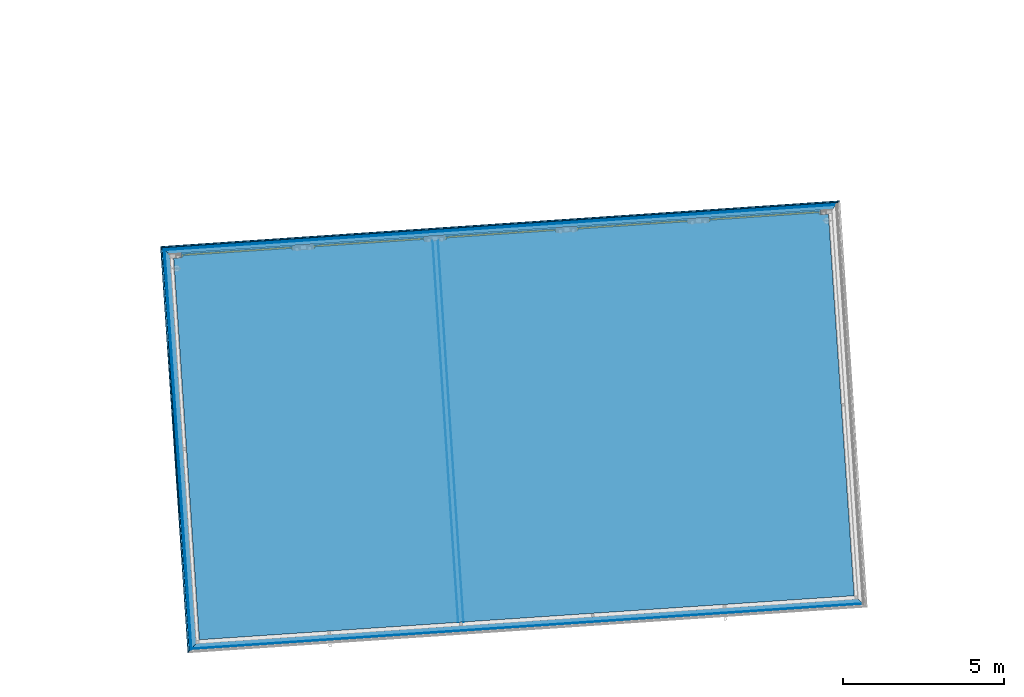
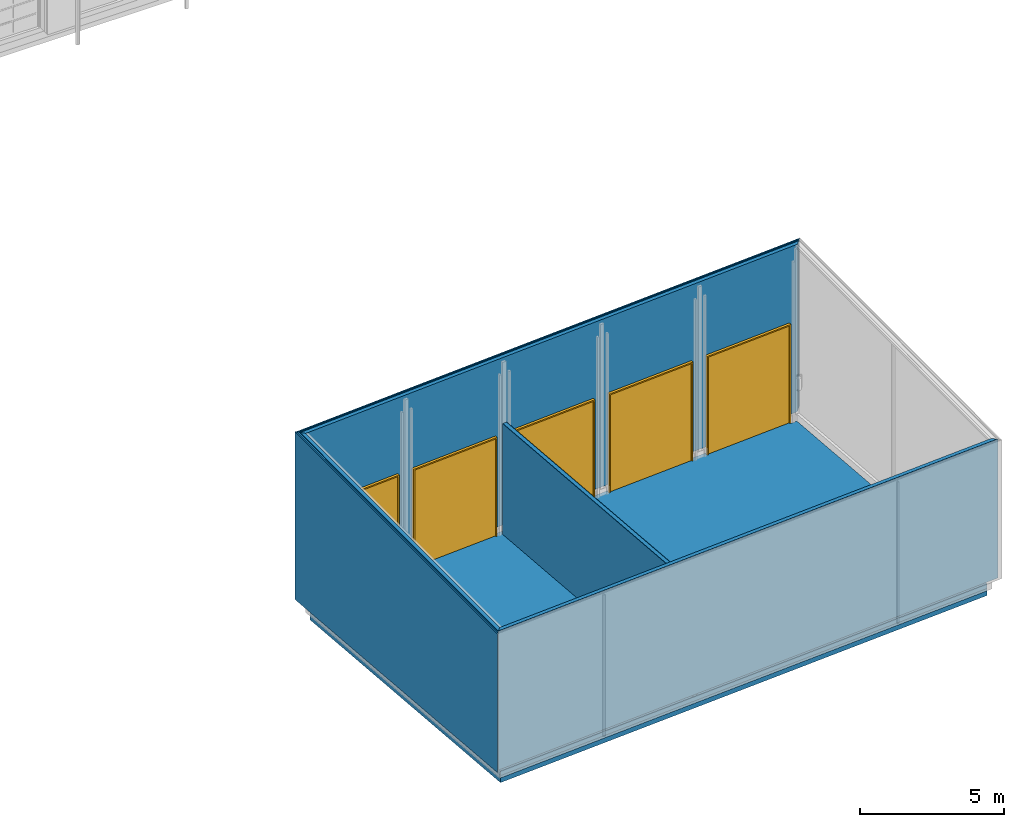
# One storey, part 19 of 112: 18 building element parts, 5 doors, 5 openings, 5 elements without a shape of their own.
"""IFC2X3 building model written with IfcOpenShell, lengths in millimetres."""

import ifcopenshell
import ifcopenshell.guid

model = None  # the IFC model being written
_history = None  # IfcOwnerHistory: only IFC2X3 demands one
_inside = {}  # id of a spatial element -> (the spatial element, [elements in it])
_under = {}  # id of a project, library or spatial element -> (it, [spatial elements below it])
_declared = {}  # id of a project -> (the project, [libraries it declares])
_typed = {}  # id of a type object -> (the type object, [elements of that type])
_made_of = {}  # id of a material, layer set ... -> (it, [elements and type objects made of it])


def new_model(schema):
    """Start an empty IFC model of exactly this schema.

    Asked for "IFC4X3", IfcOpenShell would pick the latest addendum, in which some entities
    have other attributes; the version numbers below select the first issue.
    IFC2X3 requires an IfcOwnerHistory on every rooted entity: one is made here for all.
    """
    global model, _history
    if schema == "IFC4X3":
        model = ifcopenshell.file(schema_version=(4, 3, 0, 0))
    else:
        model = ifcopenshell.file(schema=schema)
    _inside.clear()
    _under.clear()
    _declared.clear()
    _typed.clear()
    _made_of.clear()
    _history = None
    if model.schema == "IFC2X3":
        org = make("IfcOrganization", Name="unknown")
        user = make(
            "IfcPersonAndOrganization",
            ThePerson=make("IfcPerson", FamilyName="unknown"),
            TheOrganization=org,
        )
        app = make(
            "IfcApplication",
            ApplicationDeveloper=org,
            Version="unknown",
            ApplicationFullName="unknown",
            ApplicationIdentifier="unknown",
        )
        _history = make(
            "IfcOwnerHistory",
            OwningUser=user,
            OwningApplication=app,
            ChangeAction="ADDED",
            CreationDate=0,
        )
    return model


def make(cls, **values):
    """One entity of the class cls with the attributes given. An attribute that is None is left unset."""
    return model.create_entity(
        cls, **{name: value for name, value in values.items() if value is not None}
    )


def entity(cls, *values):
    """Any entity or typed value of the class cls, its attributes in the order of the schema. None: left unset."""
    e = model.create_entity(cls)
    for i, value in enumerate(values):
        if value is not None:
            e[i] = value
    return e


def rooted(cls, **values):
    """An entity with a GlobalId (a new one), such as an element, a storey or a relation."""
    return make(cls, GlobalId=ifcopenshell.guid.new(), OwnerHistory=_history, **values)


def si_unit(unit_type, name, prefix=None):
    """IfcSIUnit, for example si_unit("LENGTHUNIT", "METRE", prefix="MILLI")."""
    return make("IfcSIUnit", UnitType=unit_type, Prefix=prefix, Name=name)


def converted_unit(unit_type, name, factor, base, dimensions=None, offset=None):
    """IfcConversionBasedUnit, such as the inch: factor (a typed value) times the base unit."""
    return make(
        "IfcConversionBasedUnit"
        if offset is None
        else "IfcConversionBasedUnitWithOffset",
        ConversionOffset=offset,
        Dimensions=None
        if dimensions is None
        else entity("IfcDimensionalExponents", *dimensions),
        UnitType=unit_type,
        Name=name,
        ConversionFactor=make(
            "IfcMeasureWithUnit", ValueComponent=factor, UnitComponent=base
        ),
    )


def derived_unit(unit_type, elements):
    """IfcDerivedUnit: a product of units, each with its exponent."""
    return make(
        "IfcDerivedUnit",
        Elements=[
            make("IfcDerivedUnitElement", Unit=unit, Exponent=power)
            for unit, power in elements
        ],
        UnitType=unit_type,
    )


def money_unit(currency):
    """IfcMonetaryUnit."""
    return make("IfcMonetaryUnit", Currency=currency)


def assignment(units):
    """IfcUnitAssignment: the units of a project."""
    return None if units is None else make("IfcUnitAssignment", Units=units)


def point(xyz):
    """IfcCartesianPoint."""
    return None if xyz is None else make("IfcCartesianPoint", Coordinates=xyz)


def direction(xyz):
    """IfcDirection."""
    return None if xyz is None else make("IfcDirection", DirectionRatios=xyz)


def frame(location, z_axis=None, x_axis=None):
    """IfcAxis2Placement3D, a coordinate frame: its origin and axes. An axis left out is left unset."""
    return make(
        "IfcAxis2Placement3D",
        Location=point(location),
        Axis=direction(z_axis),
        RefDirection=direction(x_axis),
    )


def frame_2d(location, x_axis=None):
    """IfcAxis2Placement2D, a coordinate frame in the plane: its origin and x axis."""
    return make(
        "IfcAxis2Placement2D", Location=point(location), RefDirection=direction(x_axis)
    )


def origin_with_axes():
    """The frame at (0, 0, 0) with the z axis (0, 0, 1) and the x axis (1, 0, 0) written out."""
    return frame((0.0, 0.0, 0.0), z_axis=(0.0, 0.0, 1.0), x_axis=(1.0, 0.0, 0.0))


def origin_2d_with_axis():
    """The frame at (0, 0) in the plane with the x axis (1, 0) written out."""
    return frame_2d((0.0, 0.0), x_axis=(1.0, 0.0))


def place(relative_to, where):
    """IfcLocalPlacement: puts the frame where relative to a parent placement (None: the world)."""
    return make(
        "IfcLocalPlacement", PlacementRelTo=relative_to, RelativePlacement=where
    )


def context(
    kind, dimensions, precision=None, world=None, true_north=None, identifier=None
):
    """IfcGeometricRepresentationContext, for example the 3D "Model" context."""
    return make(
        "IfcGeometricRepresentationContext",
        ContextIdentifier=identifier,
        ContextType=kind,
        CoordinateSpaceDimension=dimensions,
        Precision=precision,
        WorldCoordinateSystem=world,
        TrueNorth=true_north,
    )


def subcontext(parent, identifier, kind, view, scale=None):
    """IfcGeometricRepresentationSubContext, for example "Body" below "Model"."""
    return make(
        "IfcGeometricRepresentationSubContext",
        ContextIdentifier=identifier,
        ContextType=kind,
        ParentContext=parent,
        TargetScale=scale,
        TargetView=view,
    )


def project(units=None, contexts=None):
    """IfcProject with its units and contexts."""
    return rooted(
        "IfcProject",
        Name="project",
        RepresentationContexts=contexts,
        UnitsInContext=assignment(units),
    )


def spatial(cls, under=None, at=None, **own):
    """A site, building, storey or space (cls), placed at a placement, below another one or the project."""
    s = rooted(cls, ObjectPlacement=at, **own)
    if under is not None:
        _under.setdefault(under.id(), (under, []))[1].append(s)
    return s


def polyline(points):
    """IfcPolyline through the points."""
    return make("IfcPolyline", Points=[point(p) for p in points])


def profile(cls, at=None, kind="AREA", **sizes):
    """A parametric profile (cls). Its sizes go by their IFC names, for example OverallWidth=200.0."""
    return make(cls, ProfileType=kind, Position=at, **sizes)


def rectangle(**sizes):
    """IfcRectangleProfileDef."""
    return profile("IfcRectangleProfileDef", **sizes)


def outline(outer, holes=None, kind="AREA"):
    """IfcArbitraryClosedProfileDef: a profile drawn as a closed curve; with holes, ...WithVoids."""
    if holes is None:
        return make("IfcArbitraryClosedProfileDef", ProfileType=kind, OuterCurve=outer)
    return make(
        "IfcArbitraryProfileDefWithVoids",
        ProfileType=kind,
        OuterCurve=outer,
        InnerCurves=holes,
    )


def extrude(swept, where, along, depth):
    """IfcExtrudedAreaSolid: the profile swept, set in the frame where, extruded along a direction by depth."""
    return make(
        "IfcExtrudedAreaSolid",
        SweptArea=swept,
        Position=where,
        ExtrudedDirection=direction(along),
        Depth=depth,
    )


def clip(a, b, op="DIFFERENCE"):
    """IfcBooleanClippingResult: the solid a cut by the half space b."""
    return make(
        "IfcBooleanClippingResult", Operator=op, FirstOperand=a, SecondOperand=b
    )


def halfspace(plane, agree):
    """IfcHalfSpaceSolid: all space on one side of the plane z = 0 of the frame plane."""
    return make(
        "IfcHalfSpaceSolid",
        BaseSurface=make("IfcPlane", Position=plane),
        AgreementFlag=agree,
    )


def faces_of(points, faces, orient=None, outer=None):
    """IfcFace entities. A face is a list of loops; a loop is a list of indices into points, from 0.

    orient and outer hold one flag for each loop. By default every Orientation is true, the
    first loop of a face is its IfcFaceOuterBound and the others are IfcFaceBound.
    """
    made = []
    for i, loops in enumerate(faces):
        bounds = []
        for j, loop in enumerate(loops):
            is_outer = j == 0 if outer is None else outer[i][j]
            bounds.append(
                make(
                    "IfcFaceOuterBound" if is_outer else "IfcFaceBound",
                    Bound=make("IfcPolyLoop", Polygon=[points[k] for k in loop]),
                    Orientation=True if orient is None else orient[i][j],
                )
            )
        made.append(make("IfcFace", Bounds=bounds))
    return made


def faceted_brep(points, faces, orient=None, outer=None, voids=None):
    """IfcFacetedBrep: a solid bounded by flat faces; with voids (closed shells), ...WithVoids."""
    shared = [point(p) for p in points]
    hull = make("IfcClosedShell", CfsFaces=faces_of(shared, faces, orient, outer))
    if voids is None:
        return make("IfcFacetedBrep", Outer=hull)
    return make(
        "IfcFacetedBrepWithVoids",
        Outer=hull,
        Voids=[
            make(cls, CfsFaces=faces_of(shared, fs, o, b)) for cls, fs, o, b in voids
        ],
    )


def shape(context_of_items, identifier, shape_type, items):
    """IfcShapeRepresentation: the items that make up one representation, for example the "Body"."""
    return make(
        "IfcShapeRepresentation",
        ContextOfItems=context_of_items,
        RepresentationIdentifier=identifier,
        RepresentationType=shape_type,
        Items=items,
    )


def source(mapping_origin, context_of_items, identifier, shape_type, items):
    """IfcRepresentationMap: a shape defined once, which mapped items show again and again."""
    return make(
        "IfcRepresentationMap",
        MappingOrigin=mapping_origin,
        MappedRepresentation=shape(context_of_items, identifier, shape_type, items),
    )


def transform(
    local_origin,
    x_axis=None,
    y_axis=None,
    z_axis=None,
    scale=None,
    scale2=None,
    scale3=None,
    uniform=True,
):
    """IfcCartesianTransformationOperator3D, or its non-uniform kind. x_axis, y_axis, z_axis: its Axis1, 2, 3."""
    if uniform:
        return make(
            "IfcCartesianTransformationOperator3D",
            Axis1=direction(x_axis),
            Axis2=direction(y_axis),
            LocalOrigin=point(local_origin),
            Scale=scale,
            Axis3=direction(z_axis),
        )
    return make(
        "IfcCartesianTransformationOperator3DnonUniform",
        Axis1=direction(x_axis),
        Axis2=direction(y_axis),
        LocalOrigin=point(local_origin),
        Scale=scale,
        Axis3=direction(z_axis),
        Scale2=scale2,
        Scale3=scale3,
    )


def mapped(mapping_source, mapping_target):
    """IfcMappedItem: shows the shape of a source again, moved by a transform."""
    return make(
        "IfcMappedItem", MappingSource=mapping_source, MappingTarget=mapping_target
    )


def material(Name=None, Category=None):
    """IfcMaterial."""
    return make("IfcMaterial", Name=Name, Category=Category)


def made_of(thing, what):
    """Note that an element or type object is made of a material, layer set ...; save() writes the relation."""
    if what is not None:
        _made_of.setdefault(what.id(), (what, []))[1].append(thing)
    return thing


def type_object(cls, material=None, **own):
    """A type object (cls), such as IfcWallType, which elements share."""
    return made_of(rooted(cls, **own), material)


def element(
    cls,
    number,
    at=None,
    inside=None,
    cuts=None,
    type_object=None,
    material=None,
    context=None,
    identifier="Body",
    shape_type=None,
    held_by="IfcProductDefinitionShape",
    body=None,
    shapes=None,
    **own,
):
    """One element of the class cls, such as IfcWall. Its Tag is "e" and its number.

    at: its placement. inside: the storey or other place that contains it. cuts: it is an
    opening in that element (IfcRelVoidsElement). A single representation is given by context,
    identifier, shape_type and body (its items); several are given by shapes. held_by: the class
    of the entity that holds the representations. save() writes the other relations.
    """
    e = rooted(cls, Tag="e%d" % number, ObjectPlacement=at, **own)
    if body is not None:
        shapes = [shape(context, identifier, shape_type, body)]
    if shapes is not None:
        e.Representation = make(held_by, Representations=shapes)
    if inside is not None:
        _inside.setdefault(inside.id(), (inside, []))[1].append(e)
    if cuts is not None:
        rooted(
            "IfcRelVoidsElement", RelatingBuildingElement=cuts, RelatedOpeningElement=e
        )
    if type_object is not None:
        _typed.setdefault(type_object.id(), (type_object, []))[1].append(e)
    return made_of(e, material)


def fill(opening, filler):
    """IfcRelFillsElement: the door or window that sits in an opening."""
    return rooted(
        "IfcRelFillsElement",
        RelatingOpeningElement=opening,
        RelatedBuildingElement=filler,
    )


def aggregate(whole, parts):
    """IfcRelAggregates: a whole, such as a stair, and the parts it consists of."""
    return rooted("IfcRelAggregates", RelatingObject=whole, RelatedObjects=parts)


def save(model, path):
    """Write the relations noted so far, then the file.

    IfcRelAggregates (storeys below a building ...), IfcRelContainedInSpatialStructure (elements
    in a storey), IfcRelDefinesByType, IfcRelAssociatesMaterial and IfcRelDeclares: one each for
    every whole, place, type object, material and project.
    """
    for whole, parts in _under.values():
        aggregate(whole, parts)
    for where, things in _inside.values():
        rooted(
            "IfcRelContainedInSpatialStructure",
            RelatedElements=things,
            RelatingStructure=where,
        )
    for kind, things in _typed.values():
        rooted("IfcRelDefinesByType", RelatedObjects=things, RelatingType=kind)
    for what, things in _made_of.values():
        rooted("IfcRelAssociatesMaterial", RelatedObjects=things, RelatingMaterial=what)
    for by, libraries in _declared.values():
        rooted("IfcRelDeclares", RelatingContext=by, RelatedDefinitions=libraries)
    model.write(path)


model = new_model("IFC2X3")

# Units and contexts
model_context = context("Model", 3, precision=0.01, world=origin_with_axes(), true_north=direction((0.0, 1.0)))
body_context = subcontext(model_context, "Body", "Model", "MODEL_VIEW")
ifc_project = project(units=[si_unit("LENGTHUNIT", "METRE", prefix="MILLI"), si_unit("AREAUNIT", "SQUARE_METRE"), si_unit("VOLUMEUNIT", "CUBIC_METRE"), converted_unit("PLANEANGLEUNIT", "DEGREE", entity("IfcPlaneAngleMeasure", 0.0174532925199), si_unit("PLANEANGLEUNIT", "RADIAN"), dimensions=[0, 0, 0, 0, 0, 0, 0]), si_unit("SOLIDANGLEUNIT", "STERADIAN"), money_unit("EUR"), converted_unit("TIMEUNIT", "Year", entity("IfcTimeMeasure", 31556926.0), si_unit("TIMEUNIT", "SECOND"), dimensions=[0, 0, 1, 0, 0, 0, 0]), si_unit("MASSUNIT", "GRAM", prefix="KILO"), si_unit("THERMODYNAMICTEMPERATUREUNIT", "DEGREE_CELSIUS"), si_unit("LUMINOUSINTENSITYUNIT", "LUMEN"), si_unit("ENERGYUNIT", "JOULE", prefix="MEGA"), derived_unit("THERMALCONDUCTANCEUNIT", [(si_unit("POWERUNIT", "WATT"), 1), (si_unit("LENGTHUNIT", "METRE"), -1), (si_unit("THERMODYNAMICTEMPERATUREUNIT", "KELVIN"), -1)]), derived_unit("SPECIFICHEATCAPACITYUNIT", [(si_unit("ENERGYUNIT", "JOULE"), 1), (si_unit("MASSUNIT", "GRAM", prefix="KILO"), -1), (si_unit("THERMODYNAMICTEMPERATUREUNIT", "KELVIN"), -1)]), derived_unit("MASSDENSITYUNIT", [(si_unit("MASSUNIT", "GRAM", prefix="KILO"), 1), (si_unit("VOLUMEUNIT", "CUBIC_METRE"), -1)])], contexts=[model_context])

# Site, building, storey
site_placement = place(None, origin_with_axes())
site = spatial("IfcSite", under=ifc_project, at=site_placement, Name="Politse- ja Piirivalveameti ning Päästeameti ühishoone", CompositionType="ELEMENT")
building_placement = place(site_placement, origin_with_axes())
building = spatial("IfcBuilding", under=site, at=building_placement, Name="Politse- ja Piirivalveameti ning Päästeameti ühishoone", CompositionType="ELEMENT")
storey_placement = place(building_placement, origin_with_axes())
storey = spatial("IfcBuildingStorey", under=building, at=storey_placement, Name="Esimene korrus", CompositionType="ELEMENT", Elevation=0.0)

# Door
door_style = type_object("IfcDoorStyle", Name="Vertical Sliding Garage Door 23", ConstructionType="NOTDEFINED", OperationType="ROLLINGUP", ParameterTakesPrecedence=False, Sizeable=False)
shared_shape = source(origin_with_axes(), body_context, "Body", "Brep", [
    faceted_brep([(-1750.0, 0.0, 0.0), (-1700.0, 0.0, 0.0), (-1700.0, -100.0, 0.0), (-1750.0, -100.0, 0.0), (-1750.0, 0.0, 4150.0), (-1700.0, 0.0, 4150.0), (-1700.0, -100.0, 4150.0), (-1750.0, -100.0, 4150.0)], [[[0, 1, 2, 3]], [[0, 4, 5, 1]], [[1, 5, 6, 2]], [[3, 2, 6, 7]], [[4, 0, 3, 7]], [[5, 4, 7, 6]]]),
    faceted_brep([(1750.0, 0.0, 0.0), (1750.0, 0.0, 4150.0), (1750.0, -100.0, 4150.0), (1750.0, -100.0, 0.0), (1700.0, 0.0, 0.0), (1700.0, 0.0, 4150.0), (1700.0, -100.0, 4150.0), (1700.0, -100.0, 0.0)], [[[0, 1, 2, 3]], [[0, 4, 5, 1]], [[1, 5, 6, 2]], [[3, 2, 6, 7]], [[4, 0, 3, 7]], [[5, 4, 7, 6]]]),
    faceted_brep([(-1750.0, 0.0, 4200.0), (-1750.0, 0.0, 4150.0), (-1750.0, -100.0, 4150.0), (-1750.0, -100.0, 4200.0), (1750.0, 0.0, 4200.0), (1750.0, 0.0, 4150.0), (1700.0, 0.0, 4150.0), (-1700.0, 0.0, 4150.0), (-1700.0, -100.0, 4150.0), (1700.0, -100.0, 4150.0), (1750.0, -100.0, 4150.0), (1750.0, -100.0, 4200.0)], [[[0, 1, 2, 3]], [[0, 4, 5, 6, 7, 1]], [[1, 7, 8, 2]], [[3, 2, 8, 9, 10, 11]], [[4, 0, 3, 11]], [[5, 4, 11, 10]], [[6, 5, 10, 9]], [[7, 6, 9, 8]]]),
    faceted_brep([(1700.0, -55.5, 0.0), (-1700.0, -55.5, 0.0), (-1700.0, -25.5, 0.0), (1700.0, -25.5, 0.0), (1700.0, -55.5, 4150.0), (-1700.0, -55.5, 4150.0), (-1700.0, -25.5, 4150.0), (1700.0, -25.5, 4150.0)], [[[0, 1, 2, 3]], [[0, 4, 5, 1]], [[1, 5, 6, 2]], [[3, 2, 6, 7]], [[4, 0, 3, 7]], [[5, 4, 7, 6]]]),
    faceted_brep([(-1650.0, -25.5, 50.0), (1650.0, -25.5, 50.0), (1650.0, -25.5, 683.333333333), (-1650.0, -25.5, 683.333333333), (-1650.0, -15.5, 50.0), (1650.0, -15.5, 50.0), (1650.0, -15.5, 683.333333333), (-1650.0, -15.5, 683.333333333)], [[[0, 1, 2, 3]], [[1, 0, 4, 5]], [[2, 1, 5, 6]], [[3, 2, 6, 7]], [[0, 3, 7, 4]], [[5, 4, 7, 6]]]),
    faceted_brep([(566.666666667, -15.5, 100.0), (1600.0, -15.5, 100.0), (1600.0, -15.5, 633.333333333), (566.666666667, -15.5, 633.333333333), (566.666666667, -5.5, 100.0), (1600.0, -5.5, 100.0), (1600.0, -5.5, 633.333333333), (566.666666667, -5.5, 633.333333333)], [[[0, 1, 2, 3]], [[1, 0, 4, 5]], [[2, 1, 5, 6]], [[3, 2, 6, 7]], [[0, 3, 7, 4]], [[5, 4, 7, 6]]]),
    faceted_brep([(-516.666666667, -15.5, 100.0), (516.666666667, -15.5, 100.0), (516.666666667, -15.5, 633.333333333), (-516.666666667, -15.5, 633.333333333), (-516.666666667, -5.5, 100.0), (516.666666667, -5.5, 100.0), (516.666666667, -5.5, 633.333333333), (-516.666666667, -5.5, 633.333333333)], [[[0, 1, 2, 3]], [[1, 0, 4, 5]], [[2, 1, 5, 6]], [[3, 2, 6, 7]], [[0, 3, 7, 4]], [[5, 4, 7, 6]]]),
    faceted_brep([(-1600.0, -15.5, 100.0), (-566.666666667, -15.5, 100.0), (-566.666666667, -15.5, 633.333333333), (-1600.0, -15.5, 633.333333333), (-1600.0, -5.5, 100.0), (-566.666666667, -5.5, 100.0), (-566.666666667, -5.5, 633.333333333), (-1600.0, -5.5, 633.333333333)], [[[0, 1, 2, 3]], [[1, 0, 4, 5]], [[2, 1, 5, 6]], [[3, 2, 6, 7]], [[0, 3, 7, 4]], [[5, 4, 7, 6]]]),
    faceted_brep([(-1650.0, -25.5, 733.333333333), (1650.0, -25.5, 733.333333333), (1650.0, -25.5, 1366.66666667), (-1650.0, -25.5, 1366.66666667), (-1650.0, -15.5, 733.333333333), (1650.0, -15.5, 733.333333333), (1650.0, -15.5, 1366.66666667), (-1650.0, -15.5, 1366.66666667)], [[[0, 1, 2, 3]], [[1, 0, 4, 5]], [[2, 1, 5, 6]], [[3, 2, 6, 7]], [[0, 3, 7, 4]], [[5, 4, 7, 6]]]),
    faceted_brep([(566.666666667, -15.5, 783.333333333), (1600.0, -15.5, 783.333333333), (1600.0, -15.5, 1316.66666667), (566.666666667, -15.5, 1316.66666667), (566.666666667, -5.5, 783.333333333), (1600.0, -5.5, 783.333333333), (1600.0, -5.5, 1316.66666667), (566.666666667, -5.5, 1316.66666667)], [[[0, 1, 2, 3]], [[1, 0, 4, 5]], [[2, 1, 5, 6]], [[3, 2, 6, 7]], [[0, 3, 7, 4]], [[5, 4, 7, 6]]]),
    faceted_brep([(-516.666666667, -15.5, 783.333333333), (516.666666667, -15.5, 783.333333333), (516.666666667, -15.5, 1316.66666667), (-516.666666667, -15.5, 1316.66666667), (-516.666666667, -5.5, 783.333333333), (516.666666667, -5.5, 783.333333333), (516.666666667, -5.5, 1316.66666667), (-516.666666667, -5.5, 1316.66666667)], [[[0, 1, 2, 3]], [[1, 0, 4, 5]], [[2, 1, 5, 6]], [[3, 2, 6, 7]], [[0, 3, 7, 4]], [[5, 4, 7, 6]]]),
    faceted_brep([(-1600.0, -15.5, 783.333333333), (-566.666666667, -15.5, 783.333333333), (-566.666666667, -15.5, 1316.66666667), (-1600.0, -15.5, 1316.66666667), (-1600.0, -5.5, 783.333333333), (-566.666666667, -5.5, 783.333333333), (-566.666666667, -5.5, 1316.66666667), (-1600.0, -5.5, 1316.66666667)], [[[0, 1, 2, 3]], [[1, 0, 4, 5]], [[2, 1, 5, 6]], [[3, 2, 6, 7]], [[0, 3, 7, 4]], [[5, 4, 7, 6]]]),
    faceted_brep([(-1650.0, -25.5, 1416.66666667), (1650.0, -25.5, 1416.66666667), (1650.0, -25.5, 2050.0), (-1650.0, -25.5, 2050.0), (-1650.0, -15.5, 1416.66666667), (1650.0, -15.5, 1416.66666667), (1650.0, -15.5, 2050.0), (-1650.0, -15.5, 2050.0)], [[[0, 1, 2, 3]], [[1, 0, 4, 5]], [[2, 1, 5, 6]], [[3, 2, 6, 7]], [[0, 3, 7, 4]], [[5, 4, 7, 6]]]),
    faceted_brep([(566.666666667, -15.5, 1466.66666667), (1600.0, -15.5, 1466.66666667), (1600.0, -15.5, 2000.0), (566.666666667, -15.5, 2000.0), (566.666666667, -5.5, 1466.66666667), (1600.0, -5.5, 1466.66666667), (1600.0, -5.5, 2000.0), (566.666666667, -5.5, 2000.0)], [[[0, 1, 2, 3]], [[1, 0, 4, 5]], [[2, 1, 5, 6]], [[3, 2, 6, 7]], [[0, 3, 7, 4]], [[5, 4, 7, 6]]]),
    faceted_brep([(-516.666666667, -15.5, 1466.66666667), (516.666666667, -15.5, 1466.66666667), (516.666666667, -15.5, 2000.0), (-516.666666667, -15.5, 2000.0), (-516.666666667, -5.5, 1466.66666667), (516.666666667, -5.5, 1466.66666667), (516.666666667, -5.5, 2000.0), (-516.666666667, -5.5, 2000.0)], [[[0, 1, 2, 3]], [[1, 0, 4, 5]], [[2, 1, 5, 6]], [[3, 2, 6, 7]], [[0, 3, 7, 4]], [[5, 4, 7, 6]]]),
    faceted_brep([(-1600.0, -15.5, 1466.66666667), (-566.666666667, -15.5, 1466.66666667), (-566.666666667, -15.5, 2000.0), (-1600.0, -15.5, 2000.0), (-1600.0, -5.5, 1466.66666667), (-566.666666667, -5.5, 1466.66666667), (-566.666666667, -5.5, 2000.0), (-1600.0, -5.5, 2000.0)], [[[0, 1, 2, 3]], [[1, 0, 4, 5]], [[2, 1, 5, 6]], [[3, 2, 6, 7]], [[0, 3, 7, 4]], [[5, 4, 7, 6]]]),
    faceted_brep([(-1650.0, -25.5, 2100.0), (1650.0, -25.5, 2100.0), (1650.0, -25.5, 2733.33333333), (-1650.0, -25.5, 2733.33333333), (-1650.0, -15.5, 2100.0), (1650.0, -15.5, 2100.0), (1650.0, -15.5, 2733.33333333), (-1650.0, -15.5, 2733.33333333)], [[[0, 1, 2, 3]], [[1, 0, 4, 5]], [[2, 1, 5, 6]], [[3, 2, 6, 7]], [[0, 3, 7, 4]], [[5, 4, 7, 6]]]),
    faceted_brep([(566.666666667, -15.5, 2150.0), (1600.0, -15.5, 2150.0), (1600.0, -15.5, 2683.33333333), (566.666666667, -15.5, 2683.33333333), (566.666666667, -5.5, 2150.0), (1600.0, -5.5, 2150.0), (1600.0, -5.5, 2683.33333333), (566.666666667, -5.5, 2683.33333333)], [[[0, 1, 2, 3]], [[1, 0, 4, 5]], [[2, 1, 5, 6]], [[3, 2, 6, 7]], [[0, 3, 7, 4]], [[5, 4, 7, 6]]]),
    faceted_brep([(-516.666666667, -15.5, 2150.0), (516.666666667, -15.5, 2150.0), (516.666666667, -15.5, 2683.33333333), (-516.666666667, -15.5, 2683.33333333), (-516.666666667, -5.5, 2150.0), (516.666666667, -5.5, 2150.0), (516.666666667, -5.5, 2683.33333333), (-516.666666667, -5.5, 2683.33333333)], [[[0, 1, 2, 3]], [[1, 0, 4, 5]], [[2, 1, 5, 6]], [[3, 2, 6, 7]], [[0, 3, 7, 4]], [[5, 4, 7, 6]]]),
    faceted_brep([(-1600.0, -15.5, 2150.0), (-566.666666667, -15.5, 2150.0), (-566.666666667, -15.5, 2683.33333333), (-1600.0, -15.5, 2683.33333333), (-1600.0, -5.5, 2150.0), (-566.666666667, -5.5, 2150.0), (-566.666666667, -5.5, 2683.33333333), (-1600.0, -5.5, 2683.33333333)], [[[0, 1, 2, 3]], [[1, 0, 4, 5]], [[2, 1, 5, 6]], [[3, 2, 6, 7]], [[0, 3, 7, 4]], [[5, 4, 7, 6]]]),
    faceted_brep([(-1650.0, -25.5, 2783.33333333), (1650.0, -25.5, 2783.33333333), (1650.0, -25.5, 3416.66666667), (-1650.0, -25.5, 3416.66666667), (-1650.0, -15.5, 2783.33333333), (1650.0, -15.5, 2783.33333333), (1650.0, -15.5, 3416.66666667), (-1650.0, -15.5, 3416.66666667)], [[[0, 1, 2, 3]], [[1, 0, 4, 5]], [[2, 1, 5, 6]], [[3, 2, 6, 7]], [[0, 3, 7, 4]], [[5, 4, 7, 6]]]),
    faceted_brep([(566.666666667, -15.5, 2833.33333333), (1600.0, -15.5, 2833.33333333), (1600.0, -15.5, 3366.66666667), (566.666666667, -15.5, 3366.66666667), (566.666666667, -5.5, 2833.33333333), (1600.0, -5.5, 2833.33333333), (1600.0, -5.5, 3366.66666667), (566.666666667, -5.5, 3366.66666667)], [[[0, 1, 2, 3]], [[1, 0, 4, 5]], [[2, 1, 5, 6]], [[3, 2, 6, 7]], [[0, 3, 7, 4]], [[5, 4, 7, 6]]]),
    faceted_brep([(-516.666666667, -15.5, 2833.33333333), (516.666666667, -15.5, 2833.33333333), (516.666666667, -15.5, 3366.66666667), (-516.666666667, -15.5, 3366.66666667), (-516.666666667, -5.5, 2833.33333333), (516.666666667, -5.5, 2833.33333333), (516.666666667, -5.5, 3366.66666667), (-516.666666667, -5.5, 3366.66666667)], [[[0, 1, 2, 3]], [[1, 0, 4, 5]], [[2, 1, 5, 6]], [[3, 2, 6, 7]], [[0, 3, 7, 4]], [[5, 4, 7, 6]]]),
    faceted_brep([(-1600.0, -15.5, 2833.33333333), (-566.666666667, -15.5, 2833.33333333), (-566.666666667, -15.5, 3366.66666667), (-1600.0, -15.5, 3366.66666667), (-1600.0, -5.5, 2833.33333333), (-566.666666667, -5.5, 2833.33333333), (-566.666666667, -5.5, 3366.66666667), (-1600.0, -5.5, 3366.66666667)], [[[0, 1, 2, 3]], [[1, 0, 4, 5]], [[2, 1, 5, 6]], [[3, 2, 6, 7]], [[0, 3, 7, 4]], [[5, 4, 7, 6]]]),
    faceted_brep([(-1650.0, -25.5, 3466.66666667), (1650.0, -25.5, 3466.66666667), (1650.0, -25.5, 4100.0), (-1650.0, -25.5, 4100.0), (-1650.0, -15.5, 3466.66666667), (1650.0, -15.5, 3466.66666667), (1650.0, -15.5, 4100.0), (-1650.0, -15.5, 4100.0)], [[[0, 1, 2, 3]], [[1, 0, 4, 5]], [[2, 1, 5, 6]], [[3, 2, 6, 7]], [[0, 3, 7, 4]], [[5, 4, 7, 6]]]),
    faceted_brep([(566.666666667, -15.5, 3516.66666667), (1600.0, -15.5, 3516.66666667), (1600.0, -15.5, 4050.0), (566.666666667, -15.5, 4050.0), (566.666666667, -5.5, 3516.66666667), (1600.0, -5.5, 3516.66666667), (1600.0, -5.5, 4050.0), (566.666666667, -5.5, 4050.0)], [[[0, 1, 2, 3]], [[1, 0, 4, 5]], [[2, 1, 5, 6]], [[3, 2, 6, 7]], [[0, 3, 7, 4]], [[5, 4, 7, 6]]]),
    faceted_brep([(-516.666666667, -15.5, 3516.66666667), (516.666666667, -15.5, 3516.66666667), (516.666666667, -15.5, 4050.0), (-516.666666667, -15.5, 4050.0), (-516.666666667, -5.5, 3516.66666667), (516.666666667, -5.5, 3516.66666667), (516.666666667, -5.5, 4050.0), (-516.666666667, -5.5, 4050.0)], [[[0, 1, 2, 3]], [[1, 0, 4, 5]], [[2, 1, 5, 6]], [[3, 2, 6, 7]], [[0, 3, 7, 4]], [[5, 4, 7, 6]]]),
    faceted_brep([(-1600.0, -15.5, 3516.66666667), (-566.666666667, -15.5, 3516.66666667), (-566.666666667, -15.5, 4050.0), (-1600.0, -15.5, 4050.0), (-1600.0, -5.5, 3516.66666667), (-566.666666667, -5.5, 3516.66666667), (-566.666666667, -5.5, 4050.0), (-1600.0, -5.5, 4050.0)], [[[0, 1, 2, 3]], [[1, 0, 4, 5]], [[2, 1, 5, 6]], [[3, 2, 6, 7]], [[0, 3, 7, 4]], [[5, 4, 7, 6]]]),
])
wall_1_placement = place(storey_placement, frame((22168.2156396, -35091.7214704, 300.0), z_axis=(0.0, 0.0, 1.0), x_axis=(0.997742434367, 0.0671567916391, 0.0)))
opening_1_placement = place(wall_1_placement, frame((2095.00001185, 0.0, -300.0), z_axis=(0.0, 0.0, 1.0), x_axis=(1.0, 0.0, 0.0)))
door_1_placement = place(opening_1_placement, frame((-1750.0, 0.0, 0.0), z_axis=(0.0, 0.0, 1.0), x_axis=(1.0, 0.0, 0.0)))
door_1 = element("IfcDoor", 1, at=door_1_placement, inside=storey, type_object=door_style, Name="TV-21", ObjectType="DOOR", OverallHeight=4200.0, OverallWidth=3500.0, context=body_context, shape_type="MappedRepresentation", body=[
    mapped(shared_shape, transform((1750.0, 0.0, 0.0))),
])

opening_2_placement = place(wall_1_placement, frame((6195.00001185, 0.0, -300.0), z_axis=(0.0, 0.0, 1.0), x_axis=(1.0, 0.0, 0.0)))
door_2_placement = place(opening_2_placement, frame((-1750.0, 0.0, 0.0), z_axis=(0.0, 0.0, 1.0), x_axis=(1.0, 0.0, 0.0)))
door_2 = element("IfcDoor", 2, at=door_2_placement, inside=storey, type_object=door_style, Name="TV-21", ObjectType="DOOR", OverallHeight=4200.0, OverallWidth=3500.0, context=body_context, shape_type="MappedRepresentation", body=[
    mapped(shared_shape, transform((1750.0, 0.0, 0.0))),
])

opening_3_placement = place(wall_1_placement, frame((10295.0000118, 0.0, -300.0), z_axis=(0.0, 0.0, 1.0), x_axis=(1.0, 0.0, 0.0)))
door_3_placement = place(opening_3_placement, frame((-1750.0, 0.0, 0.0), z_axis=(0.0, 0.0, 1.0), x_axis=(1.0, 0.0, 0.0)))
door_3 = element("IfcDoor", 3, at=door_3_placement, inside=storey, type_object=door_style, Name="TV-21", ObjectType="DOOR", OverallHeight=4200.0, OverallWidth=3500.0, context=body_context, shape_type="MappedRepresentation", body=[
    mapped(shared_shape, transform((1750.0, 0.0, 0.0))),
])

opening_4_placement = place(wall_1_placement, frame((14395.0000118, 0.0, -300.0), z_axis=(0.0, 0.0, 1.0), x_axis=(1.0, 0.0, 0.0)))
door_4_placement = place(opening_4_placement, frame((-1750.0, 0.0, 0.0), z_axis=(0.0, 0.0, 1.0), x_axis=(1.0, 0.0, 0.0)))
door_4 = element("IfcDoor", 4, at=door_4_placement, inside=storey, type_object=door_style, Name="TV-21", ObjectType="DOOR", OverallHeight=4200.0, OverallWidth=3500.0, context=body_context, shape_type="MappedRepresentation", body=[
    mapped(shared_shape, transform((1750.0, 0.0, 0.0))),
])

opening_5_placement = place(wall_1_placement, frame((18495.0000118, 0.0, -300.0), z_axis=(0.0, 0.0, 1.0), x_axis=(1.0, 0.0, 0.0)))
door_5_placement = place(opening_5_placement, frame((-1750.0, 0.0, 0.0), z_axis=(0.0, 0.0, 1.0), x_axis=(1.0, 0.0, 0.0)))
door_5 = element("IfcDoor", 5, at=door_5_placement, inside=storey, type_object=door_style, Name="TV-21", ObjectType="DOOR", OverallHeight=4200.0, OverallWidth=3500.0, context=body_context, shape_type="MappedRepresentation", body=[
    mapped(shared_shape, transform((1750.0, 0.0, 0.0))),
])

# Wall, opening
wall_type_1 = type_object("IfcWallType", Name="VS-31_Välissein Pääste garaaz 275", PredefinedType="NOTDEFINED")
wall_1 = element("IfcWall", 6, at=wall_1_placement, inside=storey, type_object=wall_type_1, Name="VS-31")
opening_1 = element("IfcOpeningElement", 7, at=opening_1_placement, cuts=wall_1, Name="TV-21", context=body_context, shape_type="SweptSolid", body=[
    extrude(rectangle(XDim=3500.0, YDim=4200.0, at=origin_2d_with_axis()), frame((0.0, 0.0, 2100.0), z_axis=(0.0, -1.0, 0.0), x_axis=(1.0, 0.0, 0.0)), (0.0, 0.0, -1.0), 550.0),
    extrude(outline(polyline([(-1750.0, 8400.0), (-1750.0, 4200.0), (1750.0, 4200.0), (1750.0, 8400.0), (-1750.0, 8400.0)])), frame((0.0, -50.0, 0.0), z_axis=(0.0, -1.0, 0.0), x_axis=(1.0, 0.0, 0.0)), (0.0, 0.0, 1.0), 45.0),
    extrude(rectangle(XDim=3500.0, YDim=4200.0, at=origin_2d_with_axis()), frame((0.0, 0.0, 2100.0), z_axis=(0.0, 1.0, 0.0), x_axis=(1.0, 0.0, 0.0)), (0.0, 0.0, -1.0), 550.0),
])

fill(opening_1, door_1)

# Opening
opening_2 = element("IfcOpeningElement", 8, at=opening_2_placement, cuts=wall_1, Name="TV-21", context=body_context, shape_type="SweptSolid", body=[
    extrude(rectangle(XDim=3500.0, YDim=4200.0, at=origin_2d_with_axis()), frame((0.0, 0.0, 2100.0), z_axis=(0.0, -1.0, 0.0), x_axis=(1.0, 0.0, 0.0)), (0.0, 0.0, -1.0), 550.0),
    extrude(outline(polyline([(-1750.0, 8400.0), (-1750.0, 4200.0), (1750.0, 4200.0), (1750.0, 8400.0), (-1750.0, 8400.0)])), frame((0.0, -50.0, 0.0), z_axis=(0.0, -1.0, 0.0), x_axis=(1.0, 0.0, 0.0)), (0.0, 0.0, 1.0), 45.0),
    extrude(rectangle(XDim=3500.0, YDim=4200.0, at=origin_2d_with_axis()), frame((0.0, 0.0, 2100.0), z_axis=(0.0, 1.0, 0.0), x_axis=(1.0, 0.0, 0.0)), (0.0, 0.0, -1.0), 550.0),
])

fill(opening_2, door_2)

opening_3 = element("IfcOpeningElement", 9, at=opening_3_placement, cuts=wall_1, Name="TV-21", context=body_context, shape_type="SweptSolid", body=[
    extrude(rectangle(XDim=3500.0, YDim=4200.0, at=origin_2d_with_axis()), frame((0.0, 0.0, 2100.0), z_axis=(0.0, -1.0, 0.0), x_axis=(1.0, 0.0, 0.0)), (0.0, 0.0, -1.0), 550.0),
    extrude(outline(polyline([(-1750.0, 8400.0), (-1750.0, 4200.0), (1750.0, 4200.0), (1750.0, 8400.0), (-1750.0, 8400.0)])), frame((0.0, -50.0, 0.0), z_axis=(0.0, -1.0, 0.0), x_axis=(1.0, 0.0, 0.0)), (0.0, 0.0, 1.0), 45.0),
    extrude(rectangle(XDim=3500.0, YDim=4200.0, at=origin_2d_with_axis()), frame((0.0, 0.0, 2100.0), z_axis=(0.0, 1.0, 0.0), x_axis=(1.0, 0.0, 0.0)), (0.0, 0.0, -1.0), 550.0),
])

fill(opening_3, door_3)

opening_4 = element("IfcOpeningElement", 10, at=opening_4_placement, cuts=wall_1, Name="TV-21", context=body_context, shape_type="SweptSolid", body=[
    extrude(rectangle(XDim=3500.0, YDim=4200.0, at=origin_2d_with_axis()), frame((0.0, 0.0, 2100.0), z_axis=(0.0, -1.0, 0.0), x_axis=(1.0, 0.0, 0.0)), (0.0, 0.0, -1.0), 550.0),
    extrude(outline(polyline([(-1750.0, 8400.0), (-1750.0, 4200.0), (1750.0, 4200.0), (1750.0, 8400.0), (-1750.0, 8400.0)])), frame((0.0, -50.0, 0.0), z_axis=(0.0, -1.0, 0.0), x_axis=(1.0, 0.0, 0.0)), (0.0, 0.0, 1.0), 45.0),
    extrude(rectangle(XDim=3500.0, YDim=4200.0, at=origin_2d_with_axis()), frame((0.0, 0.0, 2100.0), z_axis=(0.0, 1.0, 0.0), x_axis=(1.0, 0.0, 0.0)), (0.0, 0.0, -1.0), 550.0),
])

fill(opening_4, door_4)

opening_5 = element("IfcOpeningElement", 11, at=opening_5_placement, cuts=wall_1, Name="TV-21", context=body_context, shape_type="SweptSolid", body=[
    extrude(rectangle(XDim=3500.0, YDim=4200.0, at=origin_2d_with_axis()), frame((0.0, 0.0, 2100.0), z_axis=(0.0, -1.0, 0.0), x_axis=(1.0, 0.0, 0.0)), (0.0, 0.0, -1.0), 550.0),
    extrude(outline(polyline([(-1750.0, 8400.0), (-1750.0, 4200.0), (1750.0, 4200.0), (1750.0, 8400.0), (-1750.0, 8400.0)])), frame((0.0, -50.0, 0.0), z_axis=(0.0, -1.0, 0.0), x_axis=(1.0, 0.0, 0.0)), (0.0, 0.0, 1.0), 45.0),
    extrude(rectangle(XDim=3500.0, YDim=4200.0, at=origin_2d_with_axis()), frame((0.0, 0.0, 2100.0), z_axis=(0.0, 1.0, 0.0), x_axis=(1.0, 0.0, 0.0)), (0.0, 0.0, -1.0), 550.0),
])

fill(opening_5, door_5)

# Building element part
ifc_material_1 = material(Name="Õhkvahe")
building_element_part_1_placement = place(wall_1_placement, origin_with_axes())
building_element_part_1 = element("IfcBuildingElementPart", 12, at=building_element_part_1_placement, material=ifc_material_1, Name="Õhkvahe", context=body_context, shape_type="SweptSolid", body=[
    extrude(outline(polyline([(0.0, 0.0), (20589.9999763, 0.0), (20739.9999763, 150.0), (-150.0, 150.0), (0.0, 0.0)])), origin_with_axes(), (0.0, 0.0, 1.0), 7108.32474572),
])

ifc_material_2 = material(Name="Vineer")
building_element_part_2_placement = place(wall_1_placement, origin_with_axes())
building_element_part_2 = element("IfcBuildingElementPart", 13, at=building_element_part_2_placement, material=ifc_material_2, Name="Vineer", context=body_context, shape_type="SweptSolid", body=[
    extrude(outline(polyline([(-150.0, 150.0), (20739.9999763, 150.0), (20754.9999763, 165.0), (-165.0, 165.0), (-150.0, 150.0)])), origin_with_axes(), (0.0, 0.0, 1.0), 7108.32474572),
])

building_element_part_3_placement = place(wall_1_placement, origin_with_axes())
building_element_part_3 = element("IfcBuildingElementPart", 14, at=building_element_part_3_placement, material=ifc_material_1, Name="Õhkvahe", context=body_context, shape_type="SweptSolid", body=[
    extrude(outline(polyline([(-165.0, 165.0), (20754.9999763, 165.0), (20769.9999763, 180.0), (-180.0, 180.0), (-165.0, 165.0)])), origin_with_axes(), (0.0, 0.0, 1.0), 7108.32474572),
])

building_element_part_4_placement = place(wall_1_placement, origin_with_axes())
building_element_part_4 = element("IfcBuildingElementPart", 15, at=building_element_part_4_placement, material=ifc_material_1, Name="Õhkvahe", context=body_context, shape_type="SweptSolid", body=[
    extrude(outline(polyline([(-180.0, 180.0), (20769.9999763, 180.0), (20819.9999763, 230.0), (-230.0, 230.0), (-180.0, 180.0)])), origin_with_axes(), (0.0, 0.0, 1.0), 7108.32474572),
])

ifc_material_3 = material(Name="GENEERILINE - VÄLINE VOODER")
building_element_part_5_placement = place(wall_1_placement, origin_with_axes())
building_element_part_5 = element("IfcBuildingElementPart", 16, at=building_element_part_5_placement, material=ifc_material_3, Name="GENEERILINE - VÄLINE VOODER", context=body_context, shape_type="SweptSolid", body=[
    extrude(outline(polyline([(-230.0, 230.0), (20819.9999763, 230.0), (20864.9999763, 275.0), (-275.0, 275.0), (-230.0, 230.0)])), origin_with_axes(), (0.0, 0.0, 1.0), 7108.32474572),
])

aggregate(wall_1, [building_element_part_1, building_element_part_2, building_element_part_3, building_element_part_4, building_element_part_5])

# Wall, building element parts
wall_2_placement = place(storey_placement, frame((43523.9937344, -45776.6578758, 300.0), z_axis=(0.0, 0.0, 1.0), x_axis=(-0.997742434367, -0.0671567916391, 0.0)))
wall_2 = element("IfcWall", 17, at=wall_2_placement, inside=storey, type_object=wall_type_1, Name="VS-31")
building_element_part_6_placement = place(wall_2_placement, origin_with_axes())
building_element_part_6 = element("IfcBuildingElementPart", 18, at=building_element_part_6_placement, material=ifc_material_1, Name="Õhkvahe", context=body_context, shape_type="SweptSolid", body=[
    extrude(outline(polyline([(0.0, 0.0), (20589.9999763, 0.0), (20739.9999763, 150.0), (-150.0, 150.0), (0.0, 0.0)])), origin_with_axes(), (0.0, 0.0, 1.0), 5897.12147372),
])
building_element_part_7_placement = place(wall_2_placement, origin_with_axes())
building_element_part_7 = element("IfcBuildingElementPart", 19, at=building_element_part_7_placement, material=ifc_material_2, Name="Vineer", context=body_context, shape_type="SweptSolid", body=[
    extrude(outline(polyline([(-150.0, 150.0), (20739.9999763, 150.0), (20754.9999763, 165.0), (-165.0, 165.0), (-150.0, 150.0)])), origin_with_axes(), (0.0, 0.0, 1.0), 5897.12147372),
])
aggregate(wall_2, [building_element_part_6, building_element_part_7])

# Slab, building element parts
slab_type = type_object("IfcSlabType", Name="PP-30_Garaazi põrand pinnasel 500", PredefinedType="NOTDEFINED")
slab_placement = place(storey_placement, frame((23078.1885269, -47047.6017953, 5.0), z_axis=(0.0, 0.0, 1.0), x_axis=(1.0, 0.0, 0.0)))
slab = element("IfcSlab", 20, at=slab_placement, inside=storey, type_object=slab_type, Name="PP-31", PredefinedType="NOTDEFINED")
ifc_material_4 = material(Name="VKK-03_Kruus")
building_element_part_8_placement = place(slab_placement, origin_with_axes())
building_element_part_8 = element("IfcBuildingElementPart", 21, at=building_element_part_8_placement, material=ifc_material_4, Name="VKK-03_Kruus", context=body_context, shape_type="SweptSolid", body=[
    extrude(outline(polyline([(0.0, 0.0), (20333.9908124, 1368.6554136), (19536.1681277, 13221.8355339), (19296.7099553, 13205.7179047), (19285.9648686, 13365.3566942), (-569.109575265, 12028.9365406), (-558.364488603, 11869.2977511), (-797.822684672, 11853.1801203), (0.0, 0.0)])), frame((0.0, 0.0, -500.0), z_axis=(0.0, 0.0, 1.0), x_axis=(1.0, 0.0, 0.0)), (0.0, 0.0, 1.0), 200.0),
])
ifc_material_5 = material(Name="SOJ-02_Soojustus - Fiiber Kõva")
building_element_part_9_placement = place(slab_placement, origin_with_axes())
building_element_part_9 = element("IfcBuildingElementPart", 22, at=building_element_part_9_placement, material=ifc_material_5, Name="SOJ-02_Soojustus - Fiiber Kõva", context=body_context, shape_type="SweptSolid", body=[
    extrude(outline(polyline([(0.0, 0.0), (20333.9908124, 1368.6554136), (19536.1681277, 13221.8355339), (19296.7099553, 13205.7179047), (19285.9648686, 13365.3566942), (-569.109575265, 12028.9365406), (-558.364488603, 11869.2977511), (-797.822684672, 11853.1801203), (0.0, 0.0)])), frame((0.0, 0.0, -300.0), z_axis=(0.0, 0.0, 1.0), x_axis=(1.0, 0.0, 0.0)), (0.0, 0.0, 1.0), 100.0),
])
ifc_material_6 = material(Name="ET-02_Raudbetoon - Toode")
building_element_part_10_placement = place(slab_placement, origin_with_axes())
building_element_part_10 = element("IfcBuildingElementPart", 23, at=building_element_part_10_placement, material=ifc_material_6, Name="ET-02_Raudbetoon - Toode", context=body_context, shape_type="SweptSolid", body=[
    extrude(outline(polyline([(0.0, 0.0), (20333.9908124, 1368.6554136), (19536.1681277, 13221.8355339), (19296.7099553, 13205.7179047), (19285.9648686, 13365.3566942), (-569.109575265, 12028.9365406), (-558.364488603, 11869.2977511), (-797.822684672, 11853.1801203), (0.0, 0.0)])), frame((0.0, 0.0, -200.0), z_axis=(0.0, 0.0, 1.0), x_axis=(1.0, 0.0, 0.0)), (0.0, 0.0, 1.0), 200.0),
])
aggregate(slab, [building_element_part_8, building_element_part_9, building_element_part_10])

# Wall, building element parts
wall_3_placement = place(storey_placement, frame((22168.2156396, -35091.7214704, 300.0), z_axis=(0.0, 0.0, 1.0), x_axis=(0.0671567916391, -0.997742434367, 0.0)))
wall_3 = element("IfcWall", 24, at=wall_3_placement, inside=storey, type_object=wall_type_1, Name="Välissein")
building_element_part_11_placement = place(wall_3_placement, origin_with_axes())
building_element_part_11 = element("IfcBuildingElementPart", 25, at=building_element_part_11_placement, material=ifc_material_1, Name="Õhkvahe", context=body_context, shape_type="Clipping", body=[
    clip(extrude(outline(polyline([(-150.0, -150.0), (12245.0, -150.0), (12095.0, 0.0), (0.0, 0.0), (-150.0, -150.0)])), origin_with_axes(), (0.0, 0.0, 1.0), 11416.6793073), halfspace(frame((702.013061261, 0.0, 7033.26386339), z_axis=(-0.0993197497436, 0.0, -0.995055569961), x_axis=(0.0, 1.0, 0.0)), True)),
])
building_element_part_12_placement = place(wall_3_placement, origin_with_axes())
building_element_part_12 = element("IfcBuildingElementPart", 26, at=building_element_part_12_placement, material=ifc_material_2, Name="Vineer", context=body_context, shape_type="Clipping", body=[
    clip(extrude(outline(polyline([(-165.0, -165.0), (12260.0, -165.0), (12245.0, -150.0), (-150.0, -150.0), (-165.0, -165.0)])), origin_with_axes(), (0.0, 0.0, 1.0), 11416.6793073), halfspace(frame((702.013061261, 0.0, 7033.26386339), z_axis=(-0.0993197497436, 0.0, -0.995055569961), x_axis=(0.0, 1.0, 0.0)), True)),
])
building_element_part_13_placement = place(wall_3_placement, origin_with_axes())
building_element_part_13 = element("IfcBuildingElementPart", 27, at=building_element_part_13_placement, material=ifc_material_1, Name="Õhkvahe", context=body_context, shape_type="Clipping", body=[
    clip(extrude(outline(polyline([(-180.0, -180.0), (12275.0, -180.0), (12260.0, -165.0), (-165.0, -165.0), (-180.0, -180.0)])), origin_with_axes(), (0.0, 0.0, 1.0), 11416.6793073), halfspace(frame((702.013061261, 0.0, 7033.26386339), z_axis=(-0.0993197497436, 0.0, -0.995055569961), x_axis=(0.0, 1.0, 0.0)), True)),
])
building_element_part_14_placement = place(wall_3_placement, origin_with_axes())
building_element_part_14 = element("IfcBuildingElementPart", 28, at=building_element_part_14_placement, material=ifc_material_1, Name="Õhkvahe", context=body_context, shape_type="Clipping", body=[
    clip(extrude(outline(polyline([(-230.0, -230.0), (12325.0, -230.0), (12275.0, -180.0), (-180.0, -180.0), (-230.0, -230.0)])), origin_with_axes(), (0.0, 0.0, 1.0), 11416.6793073), halfspace(frame((702.013061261, 0.0, 7033.26386339), z_axis=(-0.0993197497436, 0.0, -0.995055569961), x_axis=(0.0, 1.0, 0.0)), True)),
])
building_element_part_15_placement = place(wall_3_placement, origin_with_axes())
building_element_part_15 = element("IfcBuildingElementPart", 29, at=building_element_part_15_placement, material=ifc_material_3, Name="GENEERILINE - VÄLINE VOODER", context=body_context, shape_type="Clipping", body=[
    clip(extrude(outline(polyline([(-275.0, -275.0), (12370.0, -275.0), (12325.0, -230.0), (-230.0, -230.0), (-275.0, -275.0)])), origin_with_axes(), (0.0, 0.0, 1.0), 11416.6793073), halfspace(frame((702.013061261, 0.0, 7033.26386339), z_axis=(-0.0993197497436, 0.0, -0.995055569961), x_axis=(0.0, 1.0, 0.0)), True)),
])
aggregate(wall_3, [building_element_part_11, building_element_part_12, building_element_part_13, building_element_part_14, building_element_part_15])

wall_type_2 = type_object("IfcWallType", Name="SS-31_kergsein 150mm pääste garaaz 180", PredefinedType="NOTDEFINED")
wall_4_placement = place(storey_placement, frame((30401.2234276, -34587.6811777, 0.0), z_axis=(0.0, 0.0, 1.0), x_axis=(0.0668838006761, -0.997760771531, 0.0)))
wall_4 = element("IfcWall", 30, at=wall_4_placement, inside=storey, type_object=wall_type_2, Name="SS-31")
building_element_part_16_placement = place(wall_4_placement, origin_with_axes())
building_element_part_16 = element("IfcBuildingElementPart", 31, at=building_element_part_16_placement, material=ifc_material_2, Name="Vineer", context=body_context, shape_type="SweptSolid", body=[
    extrude(outline(polyline([(60.0246267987, -90.0), (11940.0250715, -90.0), (11940.0209674, -75.0), (60.0205227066, -75.0), (60.0246267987, -90.0)])), origin_with_axes(), (0.0, 0.0, 1.0), 4704.49159713),
])
building_element_part_17_placement = place(wall_4_placement, origin_with_axes())
building_element_part_17 = element("IfcBuildingElementPart", 32, at=building_element_part_17_placement, material=ifc_material_1, Name="Õhkvahe", context=body_context, shape_type="SweptSolid", body=[
    extrude(outline(polyline([(60.0205227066, -75.0), (11940.0209674, -75.0), (11939.9799265, 75.0), (59.9794817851, 75.0), (60.0205227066, -75.0)])), origin_with_axes(), (0.0, 0.0, 1.0), 4704.49159713),
])
building_element_part_18_placement = place(wall_4_placement, origin_with_axes())
building_element_part_18 = element("IfcBuildingElementPart", 33, at=building_element_part_18_placement, material=ifc_material_2, Name="Vineer", context=body_context, shape_type="SweptSolid", body=[
    extrude(outline(polyline([(59.9794817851, 75.0), (11939.9799265, 75.0), (11939.9758224, 90.0), (59.9753776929, 90.0), (59.9794817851, 75.0)])), origin_with_axes(), (0.0, 0.0, 1.0), 4704.49159713),
])
aggregate(wall_4, [building_element_part_16, building_element_part_17, building_element_part_18])

save(model, "model.ifc")
